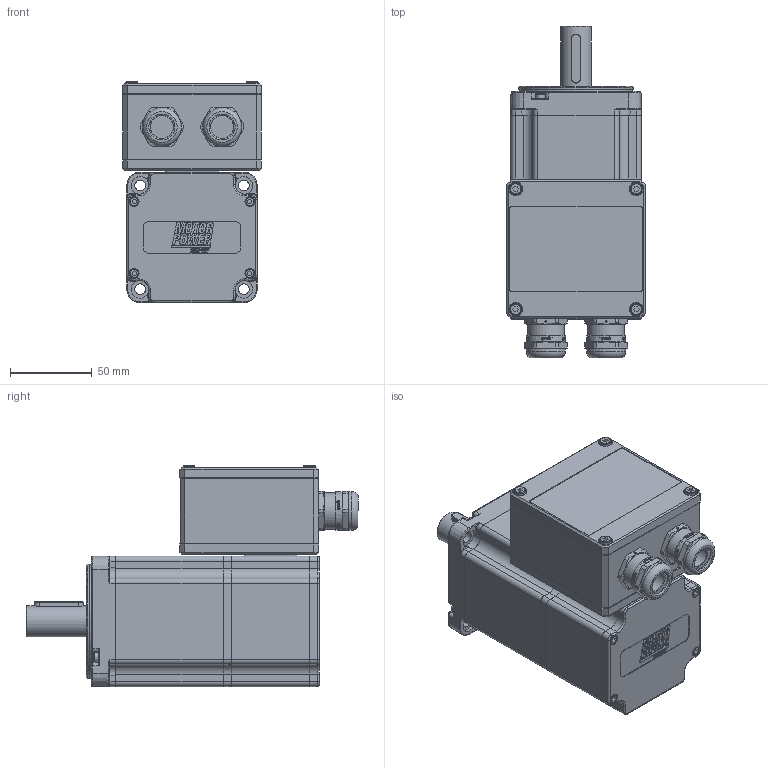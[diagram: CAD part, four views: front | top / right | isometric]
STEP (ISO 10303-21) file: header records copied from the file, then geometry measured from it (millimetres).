
FILE_DESCRIPTION(/* description */ ('Unknown'),/* implementation_level */ '2;1');
FILE_NAME(/* name */ 'TC4-80.3A LV M1 MORS Q0C152',/* time_stamp */ '2026-06-09T14:21:19+02:00',/* author */ ('Unknown'),/* organization */ ('Unknown'),/* preprocessor_version */ 'ST-DEVELOPER v19.4',/* originating_system */ 'Solid Edge',/* authorisation */ 'Unknown');
FILE_SCHEMA (('AUTOMOTIVE_DESIGN {1 0 10303 214 3 1 1}'));
Products named in the file (26): Q0C152 VUOTO M1; 005119001500; 003155002220; 003103040148; 005911000201; 003107003286; 003755100351; 007303000110; 005911000494; 005911000495; 005911000420; 005603000170; 005603000170_Gland; 005603000170_Nut; 005603000170_Clamping insert; 005603000170_Sealing insert; 005603000170_O Ring; 007303000700; Albero TC4 80 H16 A19 LV; 003110000130; 003251040719; 005911000550; 003151003185; 003799004095; 005911000499; 005113000500
Assembly tree (39 placements, depth 3):
  Q0C152 VUOTO M1
    005119001500
    003155002220
    003103040148
    005911000201
    003107003286
    003755100351
    007303000110  x2
    005911000494  x4
    005911000495  x4
    005911000420  x4
    005603000170  x2
      005603000170_Gland
      005603000170_Nut
      005603000170_Clamping insert
      005603000170_Sealing insert
      005603000170_O Ring
    007303000700
    Albero TC4 80 H16 A19 LV
    003110000130
    003251040719
    005911000550  x4
    003151003185
    003799004095
    005911000499
    005113000500
Bounding box: 85.23 x 203.69 x 135.71 mm (x, y, z)
Volume: 478315.6 mm3; surface area: 253808 mm2
Topology: 44 solids, 44 shells, 3195 faces, 8172 edges, 5258 vertices
Faces by surface type: plane 1932, cylinder 625, bspline 237, cone 222, torus 179
Full cylindrical faces by diameter (mm): 1 x8, 2.459 x18, 2.5 x1, 3 x9, 3.2 x1, 3.242 x4, 3.3 x4, 3.5 x20, 3.9 x1, 4 x8, 4.5 x4, 4.917 x1, 5 x8, 5.15 x8, 5.5 x9, 6 x8, 6.4 x1, 6.6 x4, 7 x12, 7.5 x1, 8 x4, 11 x4, 14 x2, 14.2 x2, 14.3 x2, 15 x2, 16.1 x4, 18.4 x4, 19 x2, 19.2 x4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
Entity records: 88398 total; most frequent: CARTESIAN_POINT 20551, ORIENTED_EDGE 11492, DIRECTION 11078, EDGE_CURVE 5746, AXIS2_PLACEMENT_3D 3908, VERTEX_POINT 3864, LINE 3262, VECTOR 3262
